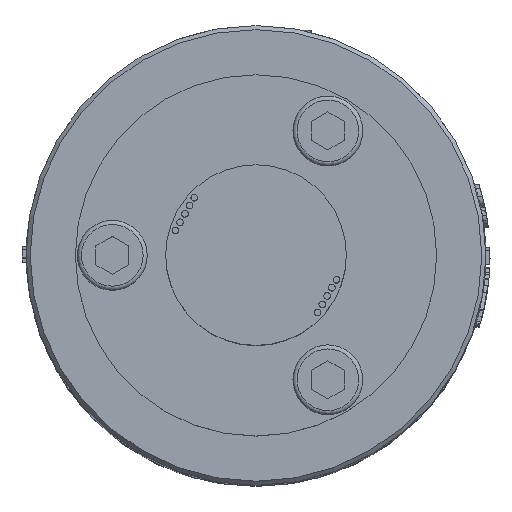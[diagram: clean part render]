
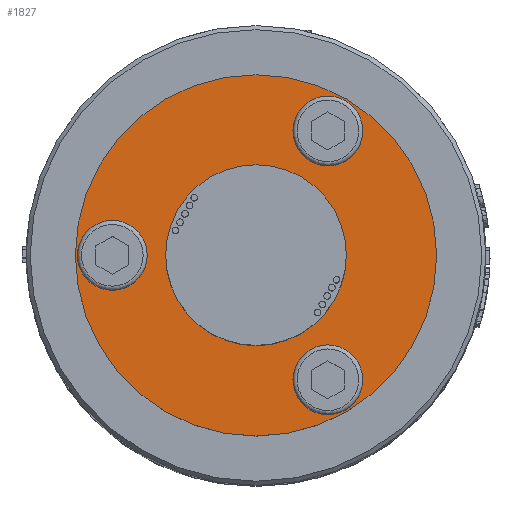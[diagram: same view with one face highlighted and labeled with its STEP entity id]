
A CAD part, top view. The second image highlights one B-rep face of the part: STEP entity #1827.
In plain terms, the highlighted planar face has unit normal (0, 0, 1).
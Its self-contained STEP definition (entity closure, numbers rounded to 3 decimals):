
#463=FACE_BOUND('',#4654,.T.);
#464=FACE_BOUND('',#4655,.T.);
#465=FACE_BOUND('',#4656,.T.);
#466=FACE_BOUND('',#4657,.T.);
#467=FACE_BOUND('',#4658,.T.);
#1324=CIRCLE('',#21059,4.25);
#1326=CIRCLE('',#21070,4.25);
#1329=CIRCLE('',#21083,4.25);
#1353=CIRCLE('',#21140,11.);
#1354=CIRCLE('',#21142,22.);
#1827=ADVANCED_FACE('',(#463,#464,#465,#466,#467),#2821,.T.);
#2821=PLANE('',#21143);
#4654=EDGE_LOOP('',(#9681));
#4655=EDGE_LOOP('',(#9682));
#4656=EDGE_LOOP('',(#9683));
#4657=EDGE_LOOP('',(#9684));
#4658=EDGE_LOOP('',(#9685));
#9681=ORIENTED_EDGE('',*,*,#16481,.F.);
#9682=ORIENTED_EDGE('',*,*,#16495,.F.);
#9683=ORIENTED_EDGE('',*,*,#16516,.F.);
#9684=ORIENTED_EDGE('',*,*,#16559,.T.);
#9685=ORIENTED_EDGE('',*,*,#16558,.F.);
#14205=VERTEX_POINT('',#32027);
#14213=VERTEX_POINT('',#32058);
#14228=VERTEX_POINT('',#32104);
#14264=VERTEX_POINT('',#32215);
#14265=VERTEX_POINT('',#32218);
#16481=EDGE_CURVE('',#14205,#14205,#1324,.T.);
#16495=EDGE_CURVE('',#14213,#14213,#1326,.T.);
#16516=EDGE_CURVE('',#14228,#14228,#1329,.T.);
#16558=EDGE_CURVE('',#14264,#14264,#1353,.T.);
#16559=EDGE_CURVE('',#14265,#14265,#1354,.T.);
#21059=AXIS2_PLACEMENT_3D('',#32026,#23105,#23106);
#21070=AXIS2_PLACEMENT_3D('',#32057,#23139,#23140);
#21083=AXIS2_PLACEMENT_3D('',#32103,#23183,#23184);
#21140=AXIS2_PLACEMENT_3D('',#32214,#23315,#23316);
#21142=AXIS2_PLACEMENT_3D('',#32217,#23319,#23320);
#21143=AXIS2_PLACEMENT_3D('',#32219,#23321,#23322);
#23105=DIRECTION('',(0.,0.,1.));
#23106=DIRECTION('',(-0.866,0.5,0.));
#23139=DIRECTION('',(0.,0.,1.));
#23140=DIRECTION('',(-0.866,0.5,0.));
#23183=DIRECTION('',(0.,0.,1.));
#23184=DIRECTION('',(-0.866,0.5,0.));
#23315=DIRECTION('',(0.,0.,1.));
#23316=DIRECTION('',(0.866,-0.5,0.));
#23319=DIRECTION('',(0.,0.,1.));
#23320=DIRECTION('',(0.866,-0.5,0.));
#23321=DIRECTION('',(0.,0.,1.));
#23322=DIRECTION('',(-0.866,0.5,0.));
#32026=CARTESIAN_POINT('',(8.75,-15.155,100.5));
#32027=CARTESIAN_POINT('',(5.069,-13.03,100.5));
#32057=CARTESIAN_POINT('',(8.75,15.155,100.5));
#32058=CARTESIAN_POINT('',(5.069,17.28,100.5));
#32103=CARTESIAN_POINT('',(-17.5,0.,100.5));
#32104=CARTESIAN_POINT('',(-21.181,2.125,100.5));
#32214=CARTESIAN_POINT('',(0.,0.,100.5));
#32215=CARTESIAN_POINT('',(9.526,-5.5,100.5));
#32217=CARTESIAN_POINT('',(0.,0.,100.5));
#32218=CARTESIAN_POINT('',(19.053,-11.,100.5));
#32219=CARTESIAN_POINT('',(0.,0.,100.5));
